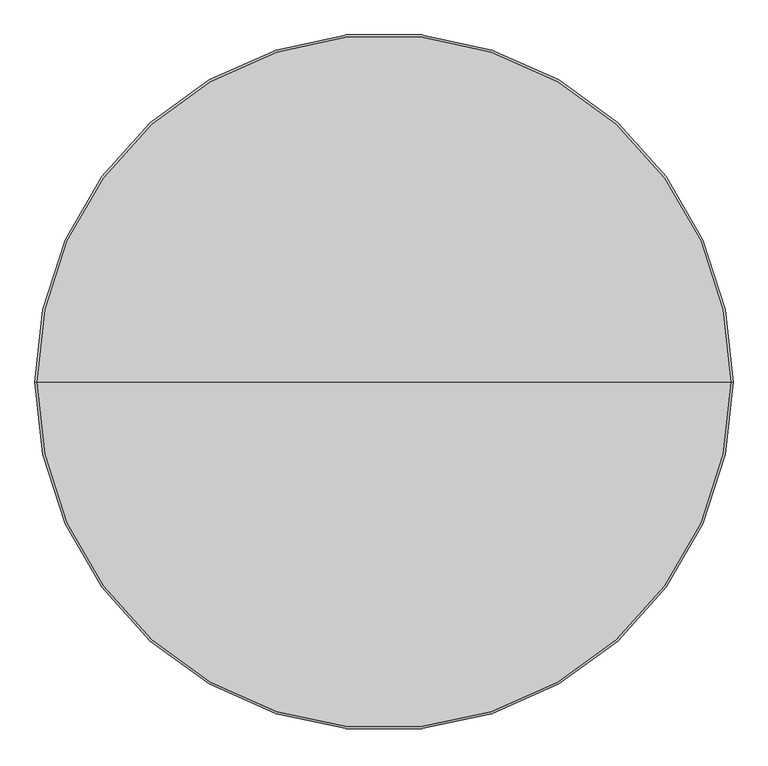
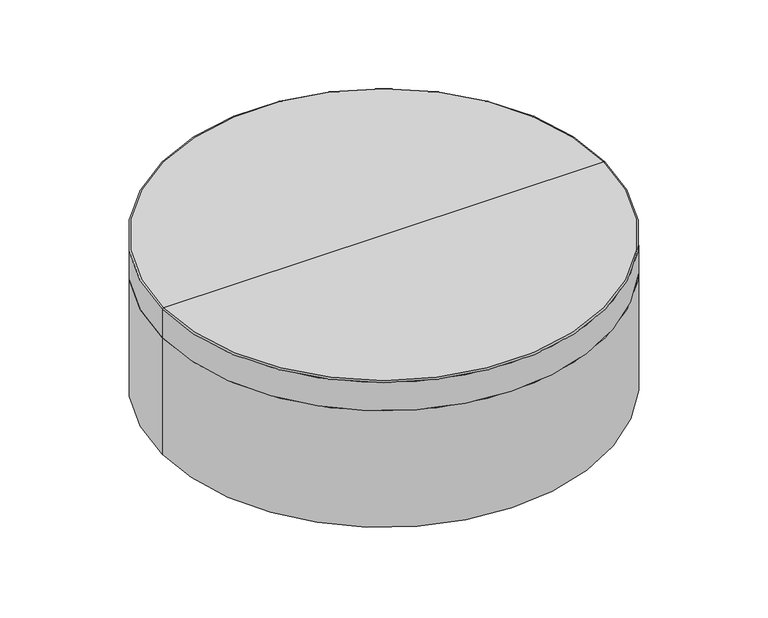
"""IFC4 building model written with IfcOpenShell, lengths in millimetres: furniture geometry, StanceHC-Drum_Table : 3-DRT42D16-U."""

from ifc_helpers import new_model, si_unit, point, frame, frame_2d, origin, origin_with_axes, place, context, project, spatial, circle_curve, ellipse_curve, trimmed, segment, composite_curve, outline, extrude, source, transform, mapped, element, save
from ifc_brep_helpers import plane_surface, cylinder_surface, revolved_surface, advanced_brep


def furniture_4b39c1f1(model_context):
    return source(origin(), model_context, "Body", "SolidModel", [
        extrude(outline(composite_curve([segment(trimmed(circle_curve(frame_2d((0.0, 478.7164845)), 12.7), [point((-12.7, 478.7164845))], [point((12.7, 478.7164845))], False, "CARTESIAN"), True, "CONTINUOUS"), segment(trimmed(circle_curve(frame_2d((0.0, 478.7164845)), 12.7), [point((12.7, 478.7164845))], [point((-12.7, 478.7164845))], False, "CARTESIAN"), True, "CONTINUOUS")], self_intersect=False)), origin_with_axes(), (0.0, 0.0, 1.0), 4.7625),
        extrude(outline(composite_curve([segment(trimmed(circle_curve(frame_2d((0.0, -478.7164845)), 12.7), [point((-12.7, -478.7164845))], [point((12.7, -478.7164845))], False, "CARTESIAN"), True, "CONTINUOUS"), segment(trimmed(circle_curve(frame_2d((0.0, -478.7164845)), 12.7), [point((12.7, -478.7164845))], [point((-12.7, -478.7164845))], False, "CARTESIAN"), True, "CONTINUOUS")], self_intersect=False)), origin_with_axes(), (0.0, 0.0, 1.0), 4.7625),
        extrude(outline(composite_curve([segment(trimmed(circle_curve(frame_2d((482.5996404, 0.0)), 12.7), [point((469.8996404, 0.0))], [point((495.2996404, 0.0))], False, "CARTESIAN"), True, "CONTINUOUS"), segment(trimmed(circle_curve(frame_2d((482.5996404, 0.0)), 12.7), [point((495.2996404, 0.0))], [point((469.8996404, 0.0))], False, "CARTESIAN"), True, "CONTINUOUS")], self_intersect=False)), origin_with_axes(), (0.0, 0.0, 1.0), 4.7625),
        extrude(outline(composite_curve([segment(trimmed(circle_curve(frame_2d((-482.5996404, 0.0)), 12.7), [point((-495.2996404, 0.0))], [point((-469.8996404, 0.0))], False, "CARTESIAN"), True, "CONTINUOUS"), segment(trimmed(circle_curve(frame_2d((-482.5996404, 0.0)), 12.7), [point((-469.8996404, 0.0))], [point((-495.2996404, 0.0))], False, "CARTESIAN"), True, "CONTINUOUS")], self_intersect=False)), origin_with_axes(), (0.0, 0.0, 1.0), 4.7625),
        advanced_brep(
        [(0.0, 0.0, 304.8), (539.75, 0.0, 304.8), (-539.75, 0.0, 304.8), (-539.75, 0.0, 4.7625), (539.75, 0.0, 4.7625), (0.0, 0.0, 4.7625)],
        [
            (0, 1),
            (1, 2, circle_curve(frame((0.0, 0.0, 304.8), z_axis=(0.0, 0.0, 1.0), x_axis=(1.0, 0.0, 0.0)), 539.75)),
            (2, 0),
            (2, 1, circle_curve(frame((0.0, 0.0, 304.8), z_axis=(0.0, 0.0, 1.0), x_axis=(1.0, 0.0, 0.0)), 539.75)),
            (3, 4, circle_curve(frame((0.0, 0.0, 4.7625), z_axis=(0.0, 0.0, -1.0), x_axis=(1.0, 0.0, 0.0)), 539.75)),
            (4, 5),
            (5, 3),
            (4, 3, circle_curve(frame((0.0, 0.0, 4.7625), z_axis=(0.0, 0.0, -1.0), x_axis=(1.0, 0.0, 0.0)), 539.75)),
            (1, 4),
            (3, 2),
        ],
        [
            plane_surface(frame((0.0, 0.0, 304.8), z_axis=(0.0, 0.0, 1.0), x_axis=(1.0, 0.0, 0.0))),
            plane_surface(frame((0.0, 0.0, 4.7625), z_axis=(0.0, 0.0, -1.0), x_axis=(1.0, 0.0, 0.0))),
            cylinder_surface(frame((0.0, 0.0, 457.2), z_axis=(0.0, 0.0, 1.0), x_axis=(1.0, 0.0, 0.0)), 539.75),
        ],
        [
            (0, [[1, 2, 3]]),
            (0, [[-3, 4, -1]]),
            (1, [[5, 6, 7]]),
            (1, [[8, -7, -6]]),
            (2, [[-2, 9, -5, 10]]),
            (2, [[-4, -10, -8, -9]]),
        ],
    ),
        advanced_brep(
        [(-539.75, 0.0, 304.8), (539.75, 0.0, 304.8), (0.0, 0.0, 304.8), (-539.75, 0.0, 377.8764933), (539.75, 0.0, 377.8764933), (-536.6264933, 0.0, 381.0), (536.6264933, 0.0, 381.0), (0.0, 0.0, 381.0)],
        [
            (0, 1, circle_curve(frame((0.0, 0.0, 304.8), z_axis=(0.0, 0.0, -1.0), x_axis=(1.0, 0.0, 0.0)), 539.75)),
            (1, 2),
            (2, 0),
            (1, 0, circle_curve(frame((0.0, 0.0, 304.8), z_axis=(0.0, 0.0, -1.0), x_axis=(1.0, 0.0, 0.0)), 539.75)),
            (3, 4, circle_curve(frame((0.0, 0.0, 377.8764933), z_axis=(0.0, 0.0, -1.0), x_axis=(1.0, 0.0, 0.0)), 539.75)),
            (4, 1),
            (0, 3),
            (4, 3, circle_curve(frame((0.0, 0.0, 377.8764933), z_axis=(0.0, 0.0, -1.0), x_axis=(1.0, 0.0, 0.0)), 539.75)),
            (5, 6, circle_curve(frame((0.0, 0.0, 381.0), z_axis=(0.0, 0.0, -1.0), x_axis=(1.0, 0.0, 0.0)), 536.6264933)),
            (6, 4, circle_curve(frame((536.6264933, 0.0, 377.8764933), z_axis=(0.0, 1.0, 0.0), x_axis=(1.0, 0.0, 0.0)), 3.1235067)),
            (3, 5, circle_curve(frame((-536.6264933, 0.0, 377.8764933), z_axis=(0.0, 1.0, 0.0), x_axis=(-1.0, 0.0, 0.0)), 3.1235067)),
            (6, 5, circle_curve(frame((0.0, 0.0, 381.0), z_axis=(0.0, 0.0, -1.0), x_axis=(1.0, 0.0, 0.0)), 536.6264933)),
            (7, 6),
            (5, 7),
        ],
        [
            plane_surface(frame((0.0, 0.0, 304.8), z_axis=(0.0, 0.0, -1.0), x_axis=(1.0, 0.0, 0.0))),
            cylinder_surface(frame((0.0, 0.0, 476.25), z_axis=(0.0, 0.0, 1.0), x_axis=(1.0, 0.0, 0.0)), 539.75),
            revolved_surface(trimmed(ellipse_curve(frame((536.6264933, 0.0, 377.8764933), z_axis=(0.0, -1.0, 0.0), x_axis=(1.0, 0.0, 0.0)), 3.1235067, 3.1235067), [point((539.75, 0.0, 377.8764933))], [point((536.6264933, 0.0, 381.0))], True, "CARTESIAN"), (0.0, 0.0, 476.25), (0.0, 0.0, 1.0)),
            plane_surface(frame((0.0, 0.0, 381.0), z_axis=(0.0, 0.0, 1.0), x_axis=(1.0, 0.0, 0.0))),
        ],
        [
            (0, [[1, 2, 3]]),
            (0, [[4, -3, -2]]),
            (1, [[5, 6, -1, 7]]),
            (1, [[8, -7, -4, -6]]),
            (2, [[9, 10, -5, 11]]),
            (2, [[12, -11, -8, -10]]),
            (3, [[13, -9, 14]]),
            (3, [[-14, -12, -13]]),
        ],
    ),
    ])


if __name__ == "__main__":
    model = new_model("IFC4")
    model_context = context("Model", 3, world=origin())
    ifc_project = project(units=[si_unit("LENGTHUNIT", "METRE", prefix="MILLI")], contexts=[model_context])
    site = spatial("IfcSite", under=ifc_project)
    building = spatial("IfcBuilding", under=site)
    placement = place(None, origin())
    furniture_shape = furniture_4b39c1f1(model_context)
    element("IfcFurniture", 1, ObjectType="StanceHC-Drum_Table : 3-DRT42D16-U", at=placement, inside=building, context=model_context, shape_type="MappedRepresentation", body=[
        mapped(furniture_shape, transform((0.0, 0.0, 0.0), x_axis=(1.0, 0.0, 0.0), y_axis=(0.0, 1.0, 0.0), z_axis=(0.0, 0.0, 1.0))),
    ])
    save(model, "model.ifc")
